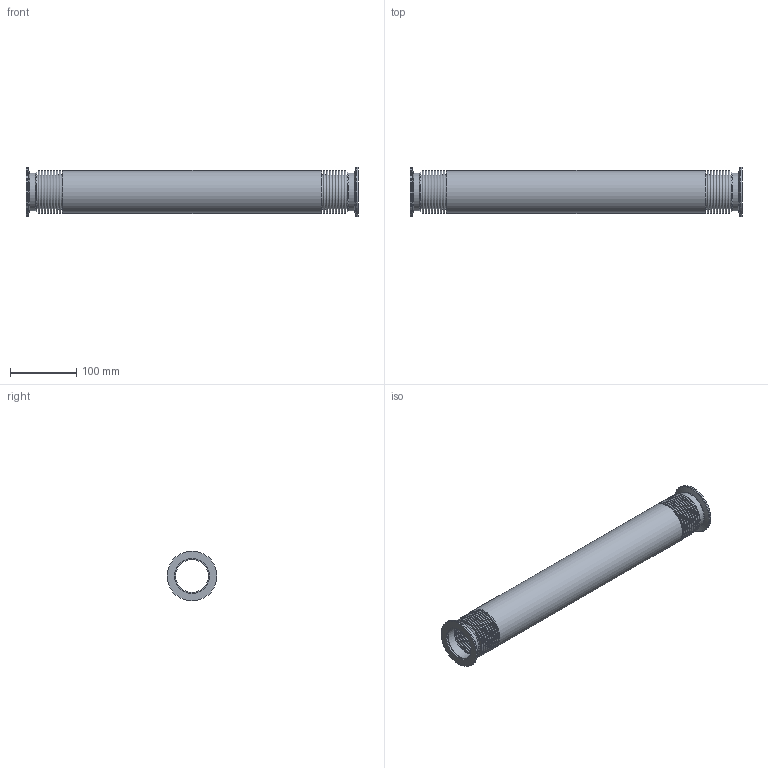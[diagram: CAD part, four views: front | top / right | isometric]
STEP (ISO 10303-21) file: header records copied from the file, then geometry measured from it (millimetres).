
FILE_DESCRIPTION((''),'2;1');
FILE_NAME('W:\211-348\M211-348.stp','2012-01-13T14:22:54',('KAA'),(''),'Autodesk Inventor 2012','Autodesk Inventor 2012','');
FILE_SCHEMA(('AUTOMOTIVE_DESIGN { 1 0 10303 214 1 1 1 1 }'));
Length unit declared in the file: millimetre
Products named in the file (1): M211-348
Bounding box: 500 x 75 x 75 mm (x, y, z)
Volume: 74097.8 mm3; surface area: 285655.2 mm2
Topology: 1 solids, 1 shells, 168 faces, 262 edges, 170 vertices
Faces by surface type: torus 76, plane 76, cylinder 12, cone 4
Full cylindrical faces by diameter (mm): 50 x2, 52.2 x2, 57 x2, 60 x2, 64.2 x1, 64.8 x1, 75 x2
Entity records: 3569 total; most frequent: DIRECTION 674, CARTESIAN_POINT 505, AXIS2_PLACEMENT_3D 337, ORIENTED_EDGE 336, EDGE_LOOP 336, STYLED_ITEM 169, VERTEX_POINT 168, CIRCLE 168
